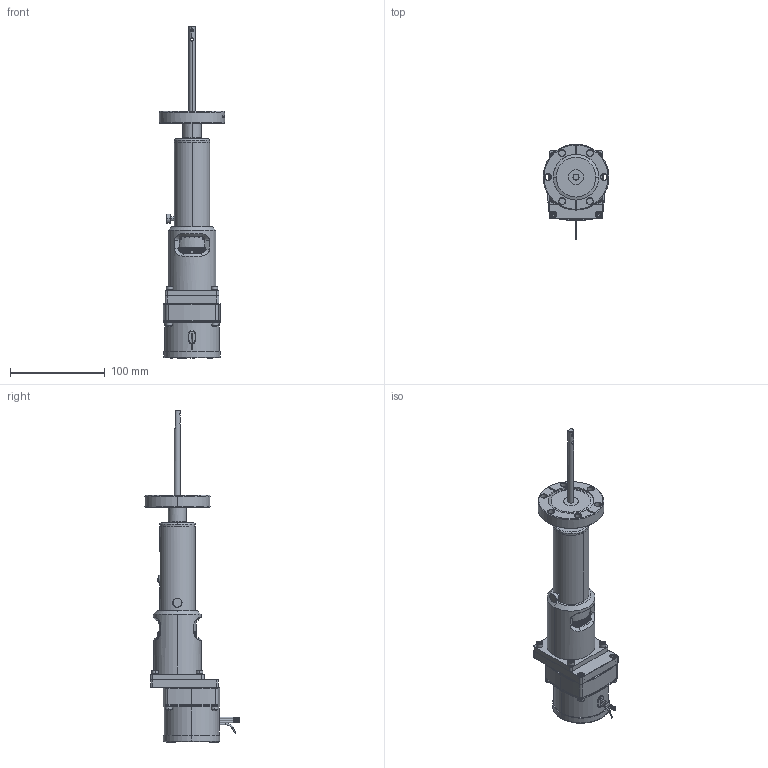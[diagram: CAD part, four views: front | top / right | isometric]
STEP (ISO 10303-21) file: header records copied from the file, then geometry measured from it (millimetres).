
FILE_DESCRIPTION (( 'STEP AP203' ), '1' );
FILE_NAME ('102220.21.stp', '2019-03-21T22:05:55', ( '' ), ( '' ), 'SwSTEP 2.0', 'SolidWorks 2012', '' );
FILE_SCHEMA (( 'CONFIG_CONTROL_DESIGN' ));
Length unit declared in the file: centimetre
Products named in the file (1): 102220.21
Bounding box: 69.34 x 100.24 x 350.39 mm (x, y, z)
Volume: 498732.3 mm3; surface area: 64956.2 mm2
Topology: 1 solids, 10 shells, 1361 faces, 3626 edges, 2336 vertices
Faces by surface type: plane 619, cylinder 387, cone 185, bspline 170
Entity records: 72772 total; most frequent: CARTESIAN_POINT 40234, ORIENTED_EDGE 7224, DIRECTION 6167, EDGE_CURVE 3612, VERTEX_POINT 2336, AXIS2_PLACEMENT_3D 2227, LINE 1713, VECTOR 1713
